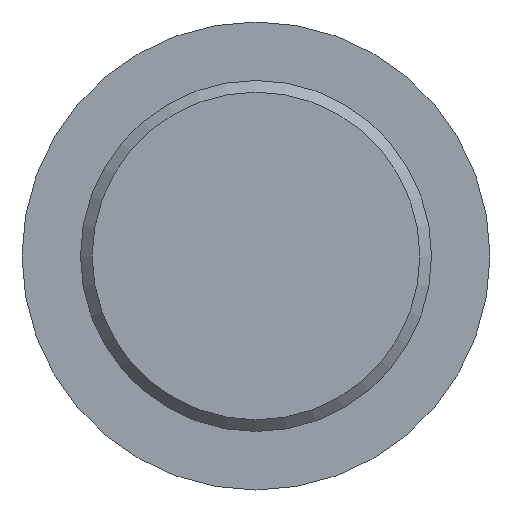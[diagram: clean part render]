
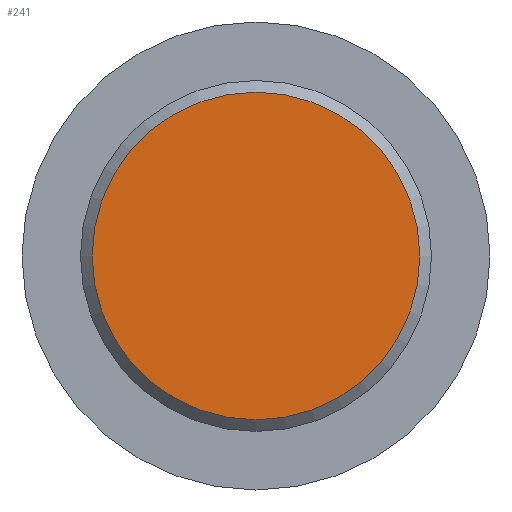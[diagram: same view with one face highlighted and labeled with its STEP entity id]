
A CAD part, front view. The second image highlights one B-rep face of the part: STEP entity #241.
In plain terms, the highlighted planar face has unit normal (0, -1, 0).
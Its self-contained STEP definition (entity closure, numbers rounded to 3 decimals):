
#26=PLANE('',#279);
#34=FACE_OUTER_BOUND('',#49,.T.);
#49=EDGE_LOOP('',(#175));
#86=CIRCLE('',#278,7.);
#112=VERTEX_POINT('',#414);
#139=EDGE_CURVE('',#112,#112,#86,.T.);
#175=ORIENTED_EDGE('',*,*,#139,.F.);
#241=ADVANCED_FACE('',(#34),#26,.T.);
#278=AXIS2_PLACEMENT_3D('',#416,#325,#326);
#279=AXIS2_PLACEMENT_3D('',#417,#327,#328);
#325=DIRECTION('center_axis',(0.,1.,0.));
#326=DIRECTION('ref_axis',(0.,0.,-1.));
#327=DIRECTION('center_axis',(0.,-1.,0.));
#328=DIRECTION('ref_axis',(0.,0.,-1.));
#414=CARTESIAN_POINT('',(0.,-200.,7.));
#416=CARTESIAN_POINT('Origin',(0.,-200.,0.));
#417=CARTESIAN_POINT('Origin',(0.,-200.,7.5));
